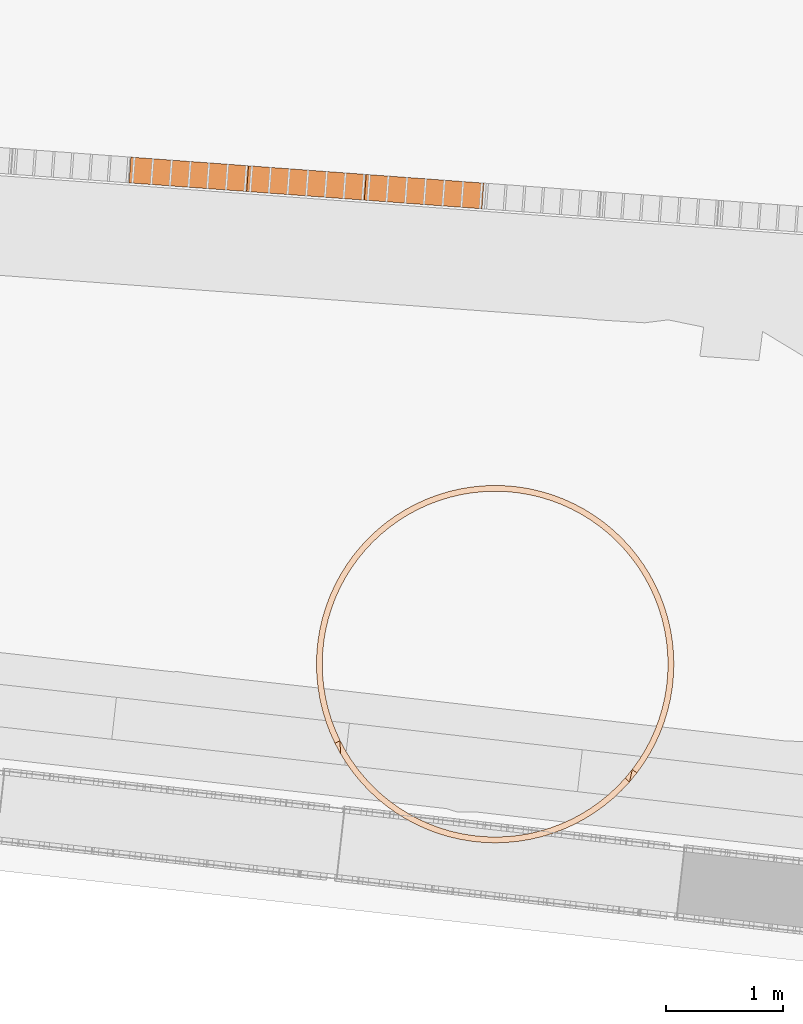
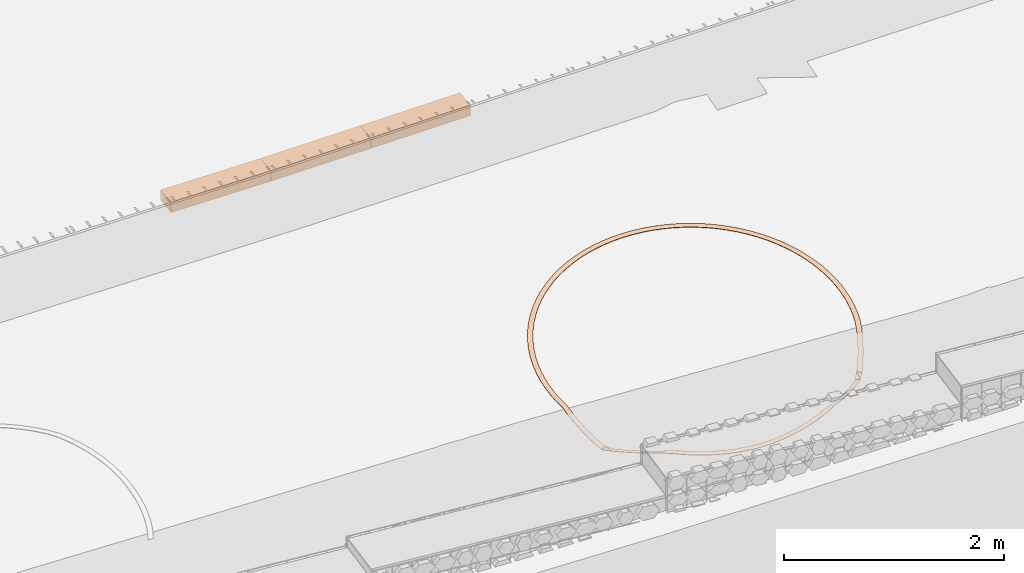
# Not in any storey, part 24 of 33: 3 proxies, 1 geographic element.
"""IFC4 model written with IfcOpenShell, lengths in metres."""

from ifc_helpers import new_model, si_unit, direction, frame, origin_with_axes, place, context, subcontext, project, spatial, polygons, material, element, save


model = new_model("IFC4")

# Units and contexts
model_context = context("Model", 3, precision=1e-05, world=origin_with_axes(), true_north=direction((0.0, 1.0)))
body_context = subcontext(model_context, "Body", "Model", "MODEL_VIEW")
ifc_project = project(units=[si_unit("LENGTHUNIT", "METRE"), si_unit("AREAUNIT", "SQUARE_METRE"), si_unit("VOLUMEUNIT", "CUBIC_METRE")], contexts=[model_context])

# Site
site_placement = place(None, origin_with_axes())
site = spatial("IfcSite", under=ifc_project, at=site_placement, Name="Lares · Rua das Mercês · artigo 4771")

# Proxies
ifc_material_1 = material(Name="Brita drenante", Category="stone")
proxy_1_placement = place(site_placement, frame((0.0, 0.0, 0.0), z_axis=(0.0, 0.0, 1.0), x_axis=(1.0, -1.03767253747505e-17, 0.0)))
element("IfcBuildingElementProxy", 1, at=proxy_1_placement, inside=site, material=ifc_material_1, Name="Acesso · dreno lateral raso · leito drenante", ObjectType="Acesso · dreno lateral raso · leito drenante", PredefinedType="USERDEFINED", context=body_context, shape_type="Tessellation", body=[
    polygons([(57.6939385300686, 2.40934039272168, 14.5734079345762), (57.7100656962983, 2.62874849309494, 14.5734079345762), (58.7141944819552, 2.55494195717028, 14.6149596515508), (58.6980673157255, 2.33553385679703, 14.6149596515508), (57.6939385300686, 2.40934039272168, 14.6884079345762), (57.7100656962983, 2.62874849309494, 14.6884079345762), (58.7141944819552, 2.55494195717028, 14.7299596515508), (58.6980673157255, 2.33553385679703, 14.7299596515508)], [[[4, 3, 2, 1]], [[5, 6, 7, 8]], [[1, 2, 6, 5]], [[2, 3, 7, 6]], [[3, 4, 8, 7]], [[4, 1, 5, 8]]]),
])
proxy_2_placement = place(site_placement, frame((0.0, 0.0, 0.0), z_axis=(0.0, 0.0, 1.0), x_axis=(1.0, -1.03767253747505e-17, 0.0)))
element("IfcBuildingElementProxy", 2, at=proxy_2_placement, inside=site, material=ifc_material_1, Name="Acesso · dreno lateral raso · leito drenante", ObjectType="Acesso · dreno lateral raso · leito drenante", PredefinedType="USERDEFINED", context=body_context, shape_type="Tessellation", body=[
    polygons([(58.6980673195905, 2.33553385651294, 14.6149596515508), (58.7141944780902, 2.55494195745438, 14.6149596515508), (59.7183183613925, 2.48113581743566, 14.6721751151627), (59.7021912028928, 2.26172771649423, 14.6721751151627), (58.6980673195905, 2.33553385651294, 14.7299596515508), (58.7141944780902, 2.55494195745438, 14.7299596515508), (59.7183183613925, 2.48113581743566, 14.7871751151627), (59.7021912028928, 2.26172771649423, 14.7871751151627)], [[[4, 3, 2, 1]], [[5, 6, 7, 8]], [[1, 2, 6, 5]], [[2, 3, 7, 6]], [[3, 4, 8, 7]], [[4, 1, 5, 8]]]),
])
proxy_3_placement = place(site_placement, frame((0.0, 0.0, 0.0), z_axis=(0.0, 0.0, 1.0), x_axis=(1.0, -1.03767253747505e-17, 0.0)))
element("IfcBuildingElementProxy", 3, at=proxy_3_placement, inside=site, material=ifc_material_1, Name="Acesso · dreno lateral raso · leito drenante", ObjectType="Acesso · dreno lateral raso · leito drenante", PredefinedType="USERDEFINED", context=body_context, shape_type="Tessellation", body=[
    polygons([(59.7021912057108, 2.2617277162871, 14.6721751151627), (59.7183183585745, 2.48113581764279, 14.6721751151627), (60.7224371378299, 2.40733007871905, 14.7304839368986), (60.7063099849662, 2.18792197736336, 14.7304839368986), (59.7021912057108, 2.2617277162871, 14.7871751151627), (59.7183183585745, 2.48113581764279, 14.7871751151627), (60.7224371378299, 2.40733007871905, 14.8454839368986), (60.7063099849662, 2.18792197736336, 14.8454839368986)], [[[4, 3, 2, 1]], [[5, 6, 7, 8]], [[1, 2, 6, 5]], [[2, 3, 7, 6]], [[3, 4, 8, 7]], [[4, 1, 5, 8]]]),
])

# Geographic element
ifc_material_2 = material(Name="Marcação de plantação · linha no terreno", Category="stone")
geographic_element_placement = place(site_placement, frame((0.0, 0.0, 0.0), z_axis=(0.0, 0.0, 1.0), x_axis=(1.0, -1.03767253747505e-17, 0.0)))
element("IfcGeographicElement", 4, at=geographic_element_placement, inside=site, material=ifc_material_2, Name="Marcação no solo · árvore indicativa 08", ObjectType="Marcação no solo · árvore indicativa 08", PredefinedType="USERDEFINED", context=body_context, shape_type="Tessellation", body=[
    polygons([(62.2936032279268, -1.69761370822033, 14.6360946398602), (62.2936032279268, -1.69761370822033, 14.6400946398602), (62.3436032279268, -1.69761370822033, 14.6385540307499), (62.3436032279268, -1.69761370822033, 14.6425540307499), (62.2904451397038, -1.60114409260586, 14.6490453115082), (62.2904451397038, -1.60114409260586, 14.6530453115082), (62.3403380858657, -1.59787393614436, 14.6519437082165), (62.3403380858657, -1.59787393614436, 14.6559437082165), (62.2809843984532, -1.50508757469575, 14.6616298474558), (62.2809843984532, -1.50508757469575, 14.6656298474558), (62.3305566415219, -1.49856126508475, 14.664954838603), (62.3305566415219, -1.49856126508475, 14.668954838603), (62.2652615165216, -1.40985548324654, 14.673794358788), (62.2652615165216, -1.40985548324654, 14.677794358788), (62.3143007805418, -1.40010096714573, 14.6775317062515), (62.3143007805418, -1.40010096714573, 14.6815317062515), (62.2433438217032, -1.31585561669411, 14.6854867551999), (62.2433438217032, -1.31585561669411, 14.6894867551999), (62.2916401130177, -1.30291466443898, 14.6896204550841), (62.2916401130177, -1.30291466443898, 14.6936204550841), (62.2153251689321, -1.22349049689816, 14.6966569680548), (62.2153251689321, -1.22349049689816, 14.7006569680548), (62.2626716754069, -1.207418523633, 14.7011693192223), (62.2626716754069, -1.207418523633, 14.7051693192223), (62.181325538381, -1.13315564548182, 14.7072571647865), (62.181325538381, -1.13315564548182, 14.7112571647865), (62.2275195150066, -1.11402147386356, 14.7121288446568), (62.2275195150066, -1.11402147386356, 14.7161288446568), (62.1414905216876, -1.0452378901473, 14.7172419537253), (62.1414905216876, -1.0452378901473, 14.7212419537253), (62.1863341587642, -1.02312345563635, 14.7224521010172), (62.1863341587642, -1.02312345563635, 14.7264521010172), (62.0959906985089, -0.960113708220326, 14.7265685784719), (62.0959906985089, -0.960113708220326, 14.7305685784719), (62.1392919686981, -0.935113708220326, 14.7320948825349), (62.1392919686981, -0.935113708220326, 14.7360948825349), (62.0450209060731, -0.878147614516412, 14.7351971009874), (62.0450209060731, -0.878147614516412, 14.7391971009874), (62.0865943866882, -0.850369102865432, 14.741015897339), (62.0865943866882, -0.850369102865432, 14.745015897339), (61.9887994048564, -0.799690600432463, 14.7430905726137), (61.9887994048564, -0.799690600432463, 14.7470905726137), (62.028467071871, -0.769252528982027, 14.7491769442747), (62.028467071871, -0.769252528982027, 14.7531769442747), (61.9275669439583, -0.725078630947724, 14.7502151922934), (61.9275669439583, -0.725078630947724, 14.7542151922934), (61.9651589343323, -0.692111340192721, 14.7565430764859), (61.9651589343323, -0.692111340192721, 14.7605430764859), (61.861585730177, -0.654631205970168, 14.7565404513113), (61.861585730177, -0.654631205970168, 14.7605404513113), (61.8969410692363, -0.61927586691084, 14.7630827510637), (61.8969410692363, -0.61927586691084, 14.7670827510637), (61.7911383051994, -0.588649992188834, 14.7620392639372), (61.7911383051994, -0.588649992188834, 14.7660392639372), (61.8241055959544, -0.551058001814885, 14.7687679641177), (61.8241055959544, -0.551058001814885, 14.7727679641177), (61.7165263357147, -0.527417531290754, 14.7666880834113), (61.7165263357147, -0.527417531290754, 14.7706880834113), (61.7469644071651, -0.487749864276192, 14.7735743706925), (61.7469644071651, -0.487749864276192, 14.7775743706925), (61.6380693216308, -0.471196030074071, 14.7704670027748), (61.6380693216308, -0.471196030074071, 14.7744670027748), (61.6658478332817, -0.429622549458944, 14.7774813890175), (61.6658478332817, -0.429622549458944, 14.7814813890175), (61.5561032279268, -0.420226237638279, 14.7733598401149), (61.5561032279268, -0.420226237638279, 14.7773598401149), (61.5811032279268, -0.376924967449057, 14.7804722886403), (61.5811032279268, -0.376924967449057, 14.7844722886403), (61.4709790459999, -0.37472641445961, 14.775354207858), (61.4709790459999, -0.37472641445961, 14.779354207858), (61.4930934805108, -0.329882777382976, 14.7825342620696), (61.4930934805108, -0.329882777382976, 14.7865342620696), (61.3830612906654, -0.334891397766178, 14.7764415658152), (61.3830612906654, -0.334891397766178, 14.7804415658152), (61.4021954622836, -0.288697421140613, 14.7836584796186), (61.4021954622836, -0.288697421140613, 14.7876584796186), (61.292726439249, -0.300891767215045, 14.7766172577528), (61.292726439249, -0.300891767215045, 14.7806172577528), (61.3087984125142, -0.25354526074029, 14.7838401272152), (61.3087984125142, -0.25354526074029, 14.7878401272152), (61.2003613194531, -0.27287311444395, 14.7758805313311), (61.2003613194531, -0.27287311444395, 14.7798805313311), (61.2133022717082, -0.224576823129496, 14.7830784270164), (61.2133022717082, -0.224576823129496, 14.7870784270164), (61.1063614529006, -0.250955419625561, 14.7742345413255), (61.1063614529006, -0.250955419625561, 14.7782345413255), (61.1161159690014, -0.201916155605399, 14.7813766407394), (61.1161159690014, -0.201916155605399, 14.7853766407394), (61.0111293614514, -0.235232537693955, 14.771686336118), (61.0111293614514, -0.235232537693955, 14.775686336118), (61.0176556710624, -0.185660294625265, 14.7787420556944), (61.0176556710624, -0.185660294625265, 14.7827420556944), (60.9150728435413, -0.225771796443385, 14.7682468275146), (60.9150728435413, -0.225771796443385, 14.7722468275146), (60.9183430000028, -0.175878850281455, 14.775185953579), (60.9183430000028, -0.175878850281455, 14.779185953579), (60.8186032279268, -0.222613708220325, 14.7639307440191), (60.8186032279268, -0.222613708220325, 14.7679307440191), (60.8186032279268, -0.172613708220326, 14.7707235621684), (60.8186032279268, -0.172613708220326, 14.7747235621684), (60.7221336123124, -0.225771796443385, 14.7587565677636), (60.7221336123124, -0.225771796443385, 14.7627565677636), (60.7188634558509, -0.175878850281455, 14.7653739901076), (60.7188634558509, -0.175878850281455, 14.7693739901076), (60.6260770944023, -0.235232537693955, 14.7527464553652), (60.6260770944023, -0.235232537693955, 14.7567464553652), (60.6195507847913, -0.185660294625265, 14.7591601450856), (60.6195507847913, -0.185660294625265, 14.7631601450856), (60.5308450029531, -0.250955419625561, 14.745926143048), (60.5308450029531, -0.250955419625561, 14.749926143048), (60.5210904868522, -0.201916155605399, 14.7521086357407), (60.5210904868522, -0.201916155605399, 14.7561086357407), (60.4368451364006, -0.27287311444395, 14.7383248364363), (60.4368451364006, -0.27287311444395, 14.7423248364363), (60.4239041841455, -0.224576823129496, 14.7442496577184), (60.4239041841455, -0.224576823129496, 14.7482496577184), (60.3444800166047, -0.300891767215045, 14.729975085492), (60.3444800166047, -0.300891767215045, 14.733975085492), (60.3284080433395, -0.253545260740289, 14.7356168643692), (60.3284080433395, -0.253545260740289, 14.7396168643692), (60.2541451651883, -0.334891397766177, 14.7209126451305), (60.2541451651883, -0.334891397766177, 14.7249126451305), (60.2350109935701, -0.288697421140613, 14.7262472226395), (60.2350109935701, -0.288697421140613, 14.7302472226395), (60.1662274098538, -0.37472641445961, 14.7111763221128), (60.1662274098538, -0.37472641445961, 14.7151763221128), (60.1441129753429, -0.329882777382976, 14.7161808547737), (60.1441129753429, -0.329882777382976, 14.7201808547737), (60.0811032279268, -0.420226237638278, 14.7008078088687), (60.0811032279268, -0.420226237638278, 14.7048078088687), (60.0561032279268, -0.376924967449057, 14.7054608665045), (60.0561032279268, -0.376924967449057, 14.7094608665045), (59.9991371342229, -0.471196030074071, 14.6898515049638), (59.9991371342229, -0.471196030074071, 14.6938515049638), (59.9713586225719, -0.429622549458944, 14.6941331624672), (59.9713586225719, -0.429622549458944, 14.6981331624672), (59.920680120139, -0.527417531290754, 14.6783543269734), (59.920680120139, -0.527417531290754, 14.6823543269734), (59.8902420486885, -0.487749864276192, 14.6822462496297), (59.8902420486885, -0.487749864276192, 14.6862462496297), (59.8460681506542, -0.588649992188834, 14.6663655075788), (59.8460681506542, -0.588649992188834, 14.6703655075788), (59.8131008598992, -0.551058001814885, 14.6698510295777), (59.8131008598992, -0.551058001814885, 14.6738510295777), (59.7756207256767, -0.654631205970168, 14.6539363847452), (59.7756207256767, -0.654631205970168, 14.6579363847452), (59.7402653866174, -0.61927586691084, 14.6570005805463), (59.7402653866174, -0.61927586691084, 14.6610005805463), (59.7096395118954, -0.725078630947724, 14.6411201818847), (59.7096395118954, -0.725078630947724, 14.6451201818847), (59.6720475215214, -0.69211134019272, 14.6437499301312), (59.6720475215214, -0.69211134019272, 14.6477499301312), (59.6484070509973, -0.799690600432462, 14.6279717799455), (59.6484070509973, -0.799690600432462, 14.6319717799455), (59.6087393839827, -0.769252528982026, 14.6301558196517), (59.6087393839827, -0.769252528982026, 14.6341558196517), (59.5921855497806, -0.878147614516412, 14.6145474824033), (59.5921855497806, -0.878147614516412, 14.6185474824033), (59.5506120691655, -0.850369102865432, 14.6162764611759), (59.5506120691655, -0.850369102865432, 14.6202764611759), (59.5412157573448, -0.960113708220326, 14.6009047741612), (59.5412157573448, -0.960113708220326, 14.6049047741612), (59.4979144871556, -0.935113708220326, 14.6021712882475), (59.4979144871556, -0.935113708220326, 14.6061712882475), (59.4957159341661, -1.0452378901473, 14.5871020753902), (59.4957159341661, -1.0452378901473, 14.5911020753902), (59.4508722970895, -1.02312345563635, 14.5879007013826), (59.4508722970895, -1.02312345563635, 14.5919007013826), (59.4558809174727, -1.13315564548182, 14.5731984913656), (59.4558809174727, -1.13315564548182, 14.5771984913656), (59.4096869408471, -1.11402147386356, 14.573525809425), (59.4096869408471, -1.11402147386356, 14.577525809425), (59.4218812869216, -1.22349049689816, 14.5592535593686), (59.4218812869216, -1.22349049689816, 14.5632535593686), (59.3745347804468, -1.207418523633, 14.5591081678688), (59.3745347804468, -1.207418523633, 14.5631081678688), (59.3938626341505, -1.31585561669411, 14.545326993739), (59.3938626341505, -1.31585561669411, 14.549326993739), (59.345566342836, -1.30291466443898, 14.5447095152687), (59.345566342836, -1.30291466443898, 14.5487095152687), (59.3719449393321, -1.40985548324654, 14.5314784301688), (59.3719449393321, -1.40985548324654, 14.5354784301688), (59.3229056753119, -1.40010096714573, 14.5303915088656), (59.3229056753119, -1.40010096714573, 14.5343915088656), (59.3562220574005, -1.50508757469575, 14.5177671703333), (59.3562220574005, -1.50508757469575, 14.5217671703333), (59.3066498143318, -1.49856126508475, 14.516215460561), (59.3066498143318, -1.49856126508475, 14.520215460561), (59.3467613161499, -1.60114409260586, 14.504251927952), (59.3467613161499, -1.60114409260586, 14.508251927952), (59.296868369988, -1.59787393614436, 14.5022420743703), (59.296868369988, -1.59787393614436, 14.5062420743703), (59.3436032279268, -1.69761370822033, 14.4909905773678), (59.3436032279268, -1.69761370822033, 14.4949905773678), (59.2936032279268, -1.69761370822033, 14.4885311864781), (59.2936032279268, -1.69761370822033, 14.4925311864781), (59.3467613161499, -1.79408332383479, 14.4780399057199), (59.3467613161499, -1.79408332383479, 14.4820399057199), (59.296868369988, -1.79735348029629, 14.4751415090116), (59.296868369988, -1.79735348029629, 14.4791415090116), (59.3562220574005, -1.8901398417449, 14.4654553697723), (59.3562220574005, -1.8901398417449, 14.4694553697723), (59.3066498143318, -1.8966661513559, 14.4621303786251), (59.3066498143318, -1.8966661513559, 14.4661303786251), (59.3719449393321, -1.98537193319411, 14.4223523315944), (59.3719449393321, -1.98537193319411, 14.4263523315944), (59.3229056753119, -1.99512644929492, 14.4125722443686), (59.3229056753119, -1.99512644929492, 14.4165722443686), (59.3938626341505, -2.07937179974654, 14.3742571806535), (59.3938626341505, -2.07937179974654, 14.3782571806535), (59.345566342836, -2.09231275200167, 14.362846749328), (59.345566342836, -2.09231275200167, 14.366846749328), (59.4218812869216, -2.17173691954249, 14.3276034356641), (59.4218812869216, -2.17173691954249, 14.3316034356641), (59.3745347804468, -2.18780889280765, 14.3146115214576), (59.3745347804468, -2.18780889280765, 14.3186115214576), (59.4558809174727, -2.26207177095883, 14.2826066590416), (59.4558809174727, -2.26207177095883, 14.2866066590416), (59.4096869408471, -2.28120594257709, 14.2680731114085), (59.4096869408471, -2.28120594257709, 14.2720731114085), (59.4957159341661, -2.34998952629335, 14.2394800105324), (59.4957159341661, -2.34998952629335, 14.2434800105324), (59.4508722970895, -2.3721039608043, 14.2258119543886), (59.4508722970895, -2.3721039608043, 14.2298119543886), (59.5412157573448, -2.43511370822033, 14.2426554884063), (59.5412157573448, -2.43511370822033, 14.2466554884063), (59.4979144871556, -2.46011370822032, 14.2490219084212), (59.4979144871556, -2.46011370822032, 14.2530219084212), (59.5921855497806, -2.51707980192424, 14.2643002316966), (59.5921855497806, -2.51707980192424, 14.2683002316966), (59.5506120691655, -2.54485831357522, 14.2714003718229), (59.5506120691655, -2.54485831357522, 14.2754003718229), (59.6484070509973, -2.59553681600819, 14.2850480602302), (59.6484070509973, -2.59553681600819, 14.2890480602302), (59.6087393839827, -2.62597488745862, 14.2928515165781), (59.6087393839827, -2.62597488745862, 14.2968515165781), (59.7096395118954, -2.67014878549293, 14.3048101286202), (59.7096395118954, -2.67014878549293, 14.3088101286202), (59.6720475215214, -2.70311607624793, 14.3132834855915), (59.6720475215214, -2.70311607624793, 14.3172834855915), (59.7756207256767, -2.74059621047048, 14.3235018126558), (59.7756207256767, -2.74059621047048, 14.3275018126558), (59.7402653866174, -2.77595154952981, 14.332608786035), (59.7402653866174, -2.77595154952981, 14.336608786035), (59.8460681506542, -2.80657742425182, 14.3410430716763), (59.8460681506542, -2.80657742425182, 14.3450430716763), (59.8131008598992, -2.84416941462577, 14.3507446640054), (59.8131008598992, -2.84416941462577, 14.3547446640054), (59.920680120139, -2.8678098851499, 14.3573587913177), (59.920680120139, -2.8678098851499, 14.3613587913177), (59.8902420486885, -2.90747755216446, 14.3535108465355), (59.8902420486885, -2.90747755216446, 14.3575108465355), (59.9991371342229, -2.92403138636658, 14.3566182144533), (59.9991371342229, -2.92403138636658, 14.3606182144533), (59.9713586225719, -2.96560486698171, 14.3496038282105), (59.9713586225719, -2.96560486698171, 14.3536038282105), (60.0811032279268, -2.97500117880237, 14.3537253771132), (60.0811032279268, -2.97500117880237, 14.3577253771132), (60.0561032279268, -3.01830244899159, 14.3466129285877), (60.0561032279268, -3.01830244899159, 14.3506129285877), (60.1662274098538, -3.02050100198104, 14.3517310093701), (60.1662274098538, -3.02050100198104, 14.3557310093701), (60.1441129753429, -3.06534463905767, 14.3445509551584), (60.1441129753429, -3.06534463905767, 14.3485509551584), (60.2541451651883, -3.06033601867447, 14.3506436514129), (60.2541451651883, -3.06033601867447, 14.3546436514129), (60.2350109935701, -3.10652999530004, 14.3434267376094), (60.2350109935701, -3.10652999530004, 14.3474267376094), (60.3444800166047, -3.09433564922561, 14.3504679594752), (60.3444800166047, -3.09433564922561, 14.3544679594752), (60.3284080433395, -3.14168215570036, 14.3432450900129), (60.3284080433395, -3.14168215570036, 14.3472450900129), (60.4368451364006, -3.1223543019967, 14.351204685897), (60.4368451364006, -3.1223543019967, 14.355204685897), (60.4239041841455, -3.17065059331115, 14.3440067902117), (60.4239041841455, -3.17065059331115, 14.3480067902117), (60.5308450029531, -3.14427199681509, 14.3528506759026), (60.5308450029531, -3.14427199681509, 14.3568506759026), (60.5210904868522, -3.19331126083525, 14.3457085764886), (60.5210904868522, -3.19331126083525, 14.3497085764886), (60.6260770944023, -3.1599948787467, 14.35539888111), (60.6260770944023, -3.1599948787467, 14.35939888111), (60.6195507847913, -3.20956712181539, 14.348943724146), (60.6195507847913, -3.20956712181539, 14.352943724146), (60.7221336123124, -3.16945561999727, 14.3596132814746), (60.7221336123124, -3.16945561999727, 14.3636132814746), (60.7188634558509, -3.2193485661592, 14.356452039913), (60.7188634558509, -3.2193485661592, 14.360452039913), (60.8186032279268, -3.17261370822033, 14.367274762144), (60.8186032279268, -3.17261370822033, 14.371274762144), (60.8186032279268, -3.22261370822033, 14.3643732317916), (60.8186032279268, -3.22261370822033, 14.3683732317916), (60.9150728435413, -3.16945561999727, 14.3753027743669), (60.9150728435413, -3.16945561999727, 14.3793027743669), (60.9183430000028, -3.2193485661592, 14.372673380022), (60.9183430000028, -3.2193485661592, 14.376673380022), (61.0111293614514, -3.1599948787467, 14.3836629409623), (61.0111293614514, -3.1599948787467, 14.3876629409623), (61.0176556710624, -3.20956712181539, 14.3813169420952), (61.0176556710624, -3.20956712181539, 14.3853169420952), (61.1063614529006, -3.14427199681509, 14.3923194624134), (61.1063614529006, -3.14427199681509, 14.3963194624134), (61.1161159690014, -3.19331126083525, 14.3902669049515), (61.1161159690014, -3.19331126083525, 14.3942669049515), (61.2003613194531, -3.1223543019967, 14.4012352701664), (61.2003613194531, -3.1223543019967, 14.4052352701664), (61.2133022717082, -3.17065059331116, 14.3994849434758), (61.2133022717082, -3.17065059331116, 14.4034849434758), (61.292726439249, -3.09433564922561, 14.4103721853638), (61.292726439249, -3.09433564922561, 14.4143721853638), (61.3087984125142, -3.14168215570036, 14.4089315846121), (61.3087984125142, -3.14168215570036, 14.4129315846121), (61.3830612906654, -3.06033601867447, 14.4196910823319), (61.3830612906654, -3.06033601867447, 14.4236910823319), (61.4021954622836, -3.10652999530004, 14.4185663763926), (61.4021954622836, -3.10652999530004, 14.4225663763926), (61.4709790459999, -3.02050100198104, 14.4167426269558), (61.4709790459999, -3.02050100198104, 14.4207426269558), (61.4930934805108, -3.06534463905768, 14.42834806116), (61.4930934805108, -3.06534463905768, 14.43234806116), (61.5561032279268, -2.97500117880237, 14.4043750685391), (61.5561032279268, -2.97500117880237, 14.4083750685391), (61.5811032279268, -3.01830244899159, 14.419975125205), (61.5811032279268, -3.01830244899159, 14.423975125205), (61.6380693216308, -2.92403138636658, 14.390036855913), (61.6380693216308, -2.92403138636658, 14.394036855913), (61.6658478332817, -2.96560486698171, 14.405150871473), (61.6658478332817, -2.96560486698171, 14.409150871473), (61.7165263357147, -2.8678098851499, 14.3737893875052), (61.7165263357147, -2.8678098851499, 14.3777893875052), (61.7469644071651, -2.90747755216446, 14.3883526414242), (61.7469644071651, -2.90747755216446, 14.3923526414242), (61.7911383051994, -2.80657742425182, 14.3557022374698), (61.7911383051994, -2.80657742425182, 14.3597022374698), (61.8241055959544, -2.84416941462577, 14.3696523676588), (61.8241055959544, -2.84416941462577, 14.3736523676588), (61.861585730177, -2.74059621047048, 14.33585285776), (61.861585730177, -2.74059621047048, 14.33985285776), (61.8969410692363, -2.77595154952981, 14.3491301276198), (61.8969410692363, -2.77595154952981, 14.3531301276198), (61.9275669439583, -2.67014878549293, 14.314326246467), (61.9275669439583, -2.67014878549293, 14.318326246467), (61.9651589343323, -2.70311607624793, 14.3268738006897), (61.9651589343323, -2.70311607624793, 14.3308738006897), (61.9887994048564, -2.59553681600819, 14.3438201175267), (61.9887994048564, -2.59553681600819, 14.3478201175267), (62.028467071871, -2.62597488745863, 14.3317825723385), (62.028467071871, -2.62597488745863, 14.3357825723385), (62.0450209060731, -2.51707980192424, 14.3909669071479), (62.0450209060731, -2.51707980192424, 14.3949669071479), (62.0865943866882, -2.54485831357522, 14.3800763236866), (62.0865943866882, -2.54485831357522, 14.3840763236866), (62.0959906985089, -2.43511370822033, 14.4394894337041), (62.0959906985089, -2.43511370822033, 14.4434894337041), (62.1392919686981, -2.46011370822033, 14.4302436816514), (62.1392919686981, -2.46011370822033, 14.4342436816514), (62.1414905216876, -2.34998952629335, 14.4891799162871), (62.1414905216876, -2.34998952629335, 14.4931799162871), (62.1863341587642, -2.3721039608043, 14.4816185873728), (62.1863341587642, -2.3721039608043, 14.4856185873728), (62.181325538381, -2.26207177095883, 14.5398255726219), (62.181325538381, -2.26207177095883, 14.5438255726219), (62.2275195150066, -2.28120594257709, 14.5339810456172), (62.2275195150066, -2.28120594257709, 14.5379810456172), (62.2153251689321, -2.17173691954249, 14.5678316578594), (62.2153251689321, -2.17173691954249, 14.5718316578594), (62.2626716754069, -2.18780889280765, 14.5679770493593), (62.2626716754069, -2.18780889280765, 14.5719770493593), (62.2433438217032, -2.07937179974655, 14.581758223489), (62.2433438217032, -2.07937179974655, 14.585758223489), (62.2916401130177, -2.09231275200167, 14.5823757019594), (62.2916401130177, -2.09231275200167, 14.5863757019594), (62.2652615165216, -1.98537193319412, 14.5956067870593), (62.2652615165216, -1.98537193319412, 14.5996067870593), (62.3143007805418, -1.99512644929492, 14.5966937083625), (62.3143007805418, -1.99512644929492, 14.6006937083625), (62.2809843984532, -1.8901398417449, 14.6093180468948), (62.2809843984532, -1.8901398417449, 14.6133180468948), (62.3305566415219, -1.8966661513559, 14.610869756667), (62.3305566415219, -1.8966661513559, 14.614869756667), (62.2904451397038, -1.79408332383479, 14.622833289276), (62.2904451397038, -1.79408332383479, 14.626833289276), (62.3403380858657, -1.79735348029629, 14.6248431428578), (62.3403380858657, -1.79735348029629, 14.6288431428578)], [[[5, 7, 3, 1]], [[4, 8, 6, 2]], [[2, 6, 5, 1]], [[7, 8, 4, 3]], [[9, 11, 7, 5]], [[8, 12, 10, 6]], [[6, 10, 9, 5]], [[11, 12, 8, 7]], [[13, 15, 11, 9]], [[12, 16, 14, 10]], [[10, 14, 13, 9]], [[15, 16, 12, 11]], [[17, 19, 15, 13]], [[16, 20, 18, 14]], [[14, 18, 17, 13]], [[19, 20, 16, 15]], [[21, 23, 19, 17]], [[20, 24, 22, 18]], [[18, 22, 21, 17]], [[23, 24, 20, 19]], [[25, 27, 23, 21]], [[24, 28, 26, 22]], [[22, 26, 25, 21]], [[27, 28, 24, 23]], [[29, 31, 27, 25]], [[28, 32, 30, 26]], [[26, 30, 29, 25]], [[31, 32, 28, 27]], [[33, 35, 31, 29]], [[32, 36, 34, 30]], [[30, 34, 33, 29]], [[35, 36, 32, 31]], [[37, 39, 35, 33]], [[36, 40, 38, 34]], [[34, 38, 37, 33]], [[39, 40, 36, 35]], [[41, 43, 39, 37]], [[40, 44, 42, 38]], [[38, 42, 41, 37]], [[43, 44, 40, 39]], [[45, 47, 43, 41]], [[44, 48, 46, 42]], [[42, 46, 45, 41]], [[47, 48, 44, 43]], [[49, 51, 47, 45]], [[48, 52, 50, 46]], [[46, 50, 49, 45]], [[51, 52, 48, 47]], [[53, 55, 51, 49]], [[52, 56, 54, 50]], [[50, 54, 53, 49]], [[55, 56, 52, 51]], [[57, 59, 55, 53]], [[56, 60, 58, 54]], [[54, 58, 57, 53]], [[59, 60, 56, 55]], [[61, 63, 59, 57]], [[60, 64, 62, 58]], [[58, 62, 61, 57]], [[63, 64, 60, 59]], [[65, 67, 63, 61]], [[64, 68, 66, 62]], [[62, 66, 65, 61]], [[67, 68, 64, 63]], [[69, 71, 67, 65]], [[68, 72, 70, 66]], [[66, 70, 69, 65]], [[71, 72, 68, 67]], [[73, 75, 71, 69]], [[72, 76, 74, 70]], [[70, 74, 73, 69]], [[75, 76, 72, 71]], [[77, 79, 75, 73]], [[76, 80, 78, 74]], [[74, 78, 77, 73]], [[79, 80, 76, 75]], [[81, 83, 79, 77]], [[80, 84, 82, 78]], [[78, 82, 81, 77]], [[83, 84, 80, 79]], [[85, 87, 83, 81]], [[84, 88, 86, 82]], [[82, 86, 85, 81]], [[87, 88, 84, 83]], [[89, 91, 87, 85]], [[88, 92, 90, 86]], [[86, 90, 89, 85]], [[91, 92, 88, 87]], [[93, 95, 91, 89]], [[92, 96, 94, 90]], [[90, 94, 93, 89]], [[95, 96, 92, 91]], [[97, 99, 95, 93]], [[96, 100, 98, 94]], [[94, 98, 97, 93]], [[99, 100, 96, 95]], [[101, 103, 99, 97]], [[100, 104, 102, 98]], [[98, 102, 101, 97]], [[103, 104, 100, 99]], [[105, 107, 103, 101]], [[104, 108, 106, 102]], [[102, 106, 105, 101]], [[107, 108, 104, 103]], [[109, 111, 107, 105]], [[108, 112, 110, 106]], [[106, 110, 109, 105]], [[111, 112, 108, 107]], [[113, 115, 111, 109]], [[112, 116, 114, 110]], [[110, 114, 113, 109]], [[115, 116, 112, 111]], [[117, 119, 115, 113]], [[116, 120, 118, 114]], [[114, 118, 117, 113]], [[119, 120, 116, 115]], [[121, 123, 119, 117]], [[120, 124, 122, 118]], [[118, 122, 121, 117]], [[123, 124, 120, 119]], [[125, 127, 123, 121]], [[124, 128, 126, 122]], [[122, 126, 125, 121]], [[127, 128, 124, 123]], [[129, 131, 127, 125]], [[128, 132, 130, 126]], [[126, 130, 129, 125]], [[131, 132, 128, 127]], [[133, 135, 131, 129]], [[132, 136, 134, 130]], [[130, 134, 133, 129]], [[135, 136, 132, 131]], [[137, 139, 135, 133]], [[136, 140, 138, 134]], [[134, 138, 137, 133]], [[139, 140, 136, 135]], [[141, 143, 139, 137]], [[140, 144, 142, 138]], [[138, 142, 141, 137]], [[143, 144, 140, 139]], [[145, 147, 143, 141]], [[144, 148, 146, 142]], [[142, 146, 145, 141]], [[147, 148, 144, 143]], [[149, 151, 147, 145]], [[148, 152, 150, 146]], [[146, 150, 149, 145]], [[151, 152, 148, 147]], [[153, 155, 151, 149]], [[152, 156, 154, 150]], [[150, 154, 153, 149]], [[155, 156, 152, 151]], [[157, 159, 155, 153]], [[156, 160, 158, 154]], [[154, 158, 157, 153]], [[159, 160, 156, 155]], [[161, 163, 159, 157]], [[160, 164, 162, 158]], [[158, 162, 161, 157]], [[163, 164, 160, 159]], [[165, 167, 163, 161]], [[164, 168, 166, 162]], [[162, 166, 165, 161]], [[167, 168, 164, 163]], [[169, 171, 167, 165]], [[168, 172, 170, 166]], [[166, 170, 169, 165]], [[171, 172, 168, 167]], [[173, 175, 171, 169]], [[172, 176, 174, 170]], [[170, 174, 173, 169]], [[175, 176, 172, 171]], [[177, 179, 175, 173]], [[176, 180, 178, 174]], [[174, 178, 177, 173]], [[179, 180, 176, 175]], [[181, 183, 179, 177]], [[180, 184, 182, 178]], [[178, 182, 181, 177]], [[183, 184, 180, 179]], [[185, 187, 183, 181]], [[184, 188, 186, 182]], [[182, 186, 185, 181]], [[187, 188, 184, 183]], [[189, 191, 187, 185]], [[188, 192, 190, 186]], [[186, 190, 189, 185]], [[191, 192, 188, 187]], [[193, 195, 191, 189]], [[192, 196, 194, 190]], [[190, 194, 193, 189]], [[195, 196, 192, 191]], [[197, 199, 195, 193]], [[196, 200, 198, 194]], [[194, 198, 197, 193]], [[199, 200, 196, 195]], [[201, 203, 199, 197]], [[200, 204, 202, 198]], [[198, 202, 201, 197]], [[203, 204, 200, 199]], [[205, 207, 203, 201]], [[204, 208, 206, 202]], [[202, 206, 205, 201]], [[207, 208, 204, 203]], [[209, 211, 207, 205]], [[208, 212, 210, 206]], [[206, 210, 209, 205]], [[211, 212, 208, 207]], [[213, 215, 211, 209]], [[212, 216, 214, 210]], [[210, 214, 213, 209]], [[215, 216, 212, 211]], [[217, 219, 215, 213]], [[216, 220, 218, 214]], [[214, 218, 217, 213]], [[219, 220, 216, 215]], [[221, 223, 219, 217]], [[220, 224, 222, 218]], [[218, 222, 221, 217]], [[223, 224, 220, 219]], [[225, 227, 223, 221]], [[224, 228, 226, 222]], [[222, 226, 225, 221]], [[227, 228, 224, 223]], [[229, 231, 227, 225]], [[228, 232, 230, 226]], [[226, 230, 229, 225]], [[231, 232, 228, 227]], [[233, 235, 231, 229]], [[232, 236, 234, 230]], [[230, 234, 233, 229]], [[235, 236, 232, 231]], [[237, 239, 235, 233]], [[236, 240, 238, 234]], [[234, 238, 237, 233]], [[239, 240, 236, 235]], [[241, 243, 239, 237]], [[240, 244, 242, 238]], [[238, 242, 241, 237]], [[243, 244, 240, 239]], [[245, 247, 243, 241]], [[244, 248, 246, 242]], [[242, 246, 245, 241]], [[247, 248, 244, 243]], [[249, 251, 247, 245]], [[248, 252, 250, 246]], [[246, 250, 249, 245]], [[251, 252, 248, 247]], [[253, 255, 251, 249]], [[252, 256, 254, 250]], [[250, 254, 253, 249]], [[255, 256, 252, 251]], [[257, 259, 255, 253]], [[256, 260, 258, 254]], [[254, 258, 257, 253]], [[259, 260, 256, 255]], [[261, 263, 259, 257]], [[260, 264, 262, 258]], [[258, 262, 261, 257]], [[263, 264, 260, 259]], [[265, 267, 263, 261]], [[264, 268, 266, 262]], [[262, 266, 265, 261]], [[267, 268, 264, 263]], [[269, 271, 267, 265]], [[268, 272, 270, 266]], [[266, 270, 269, 265]], [[271, 272, 268, 267]], [[273, 275, 271, 269]], [[272, 276, 274, 270]], [[270, 274, 273, 269]], [[275, 276, 272, 271]], [[277, 279, 275, 273]], [[276, 280, 278, 274]], [[274, 278, 277, 273]], [[279, 280, 276, 275]], [[281, 283, 279, 277]], [[280, 284, 282, 278]], [[278, 282, 281, 277]], [[283, 284, 280, 279]], [[285, 287, 283, 281]], [[284, 288, 286, 282]], [[282, 286, 285, 281]], [[287, 288, 284, 283]], [[289, 291, 287, 285]], [[288, 292, 290, 286]], [[286, 290, 289, 285]], [[291, 292, 288, 287]], [[293, 295, 291, 289]], [[292, 296, 294, 290]], [[290, 294, 293, 289]], [[295, 296, 292, 291]], [[297, 299, 295, 293]], [[296, 300, 298, 294]], [[294, 298, 297, 293]], [[299, 300, 296, 295]], [[301, 303, 299, 297]], [[300, 304, 302, 298]], [[298, 302, 301, 297]], [[303, 304, 300, 299]], [[305, 307, 303, 301]], [[304, 308, 306, 302]], [[302, 306, 305, 301]], [[307, 308, 304, 303]], [[309, 311, 307, 305]], [[308, 312, 310, 306]], [[306, 310, 309, 305]], [[311, 312, 308, 307]], [[313, 315, 311, 309]], [[312, 316, 314, 310]], [[310, 314, 313, 309]], [[315, 316, 312, 311]], [[317, 319, 315, 313]], [[316, 320, 318, 314]], [[314, 318, 317, 313]], [[319, 320, 316, 315]], [[321, 323, 319, 317]], [[320, 324, 322, 318]], [[318, 322, 321, 317]], [[323, 324, 320, 319]], [[325, 327, 323, 321]], [[324, 328, 326, 322]], [[322, 326, 325, 321]], [[327, 328, 324, 323]], [[329, 331, 327, 325]], [[328, 332, 330, 326]], [[326, 330, 329, 325]], [[331, 332, 328, 327]], [[333, 335, 331, 329]], [[332, 336, 334, 330]], [[330, 334, 333, 329]], [[335, 336, 332, 331]], [[337, 339, 335, 333]], [[336, 340, 338, 334]], [[334, 338, 337, 333]], [[339, 340, 336, 335]], [[341, 343, 339, 337]], [[340, 344, 342, 338]], [[338, 342, 341, 337]], [[343, 344, 340, 339]], [[345, 347, 343, 341]], [[344, 348, 346, 342]], [[342, 346, 345, 341]], [[347, 348, 344, 343]], [[349, 351, 347, 345]], [[348, 352, 350, 346]], [[346, 350, 349, 345]], [[351, 352, 348, 347]], [[353, 355, 351, 349]], [[352, 356, 354, 350]], [[350, 354, 353, 349]], [[355, 356, 352, 351]], [[357, 359, 355, 353]], [[356, 360, 358, 354]], [[354, 358, 357, 353]], [[359, 360, 356, 355]], [[361, 363, 359, 357]], [[360, 364, 362, 358]], [[358, 362, 361, 357]], [[363, 364, 360, 359]], [[365, 367, 363, 361]], [[364, 368, 366, 362]], [[362, 366, 365, 361]], [[367, 368, 364, 363]], [[369, 371, 367, 365]], [[368, 372, 370, 366]], [[366, 370, 369, 365]], [[371, 372, 368, 367]], [[373, 375, 371, 369]], [[372, 376, 374, 370]], [[370, 374, 373, 369]], [[375, 376, 372, 371]], [[377, 379, 375, 373]], [[376, 380, 378, 374]], [[374, 378, 377, 373]], [[379, 380, 376, 375]], [[381, 383, 379, 377]], [[380, 384, 382, 378]], [[378, 382, 381, 377]], [[383, 384, 380, 379]], [[1, 3, 383, 381]], [[384, 4, 2, 382]], [[382, 2, 1, 381]], [[3, 4, 384, 383]]]),
])

save(model, "model.ifc")
